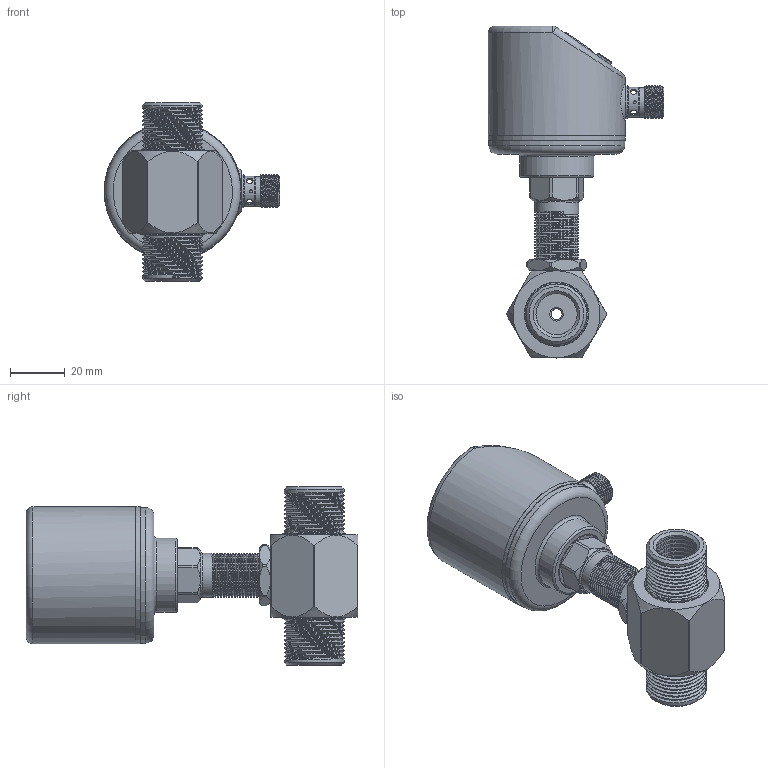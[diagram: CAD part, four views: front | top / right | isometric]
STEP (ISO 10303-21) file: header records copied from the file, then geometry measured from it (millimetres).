
FILE_DESCRIPTION (( 'STEP AP214' ), '1' );
FILE_NAME ('DN4俋杅珆.STEP', '2025-03-05T01:41:15', ( '' ), ( '' ), 'SwSTEP 2.0', 'SolidWorks 2020', '' );
FILE_SCHEMA (( 'AUTOMOTIVE_DESIGN' ));
Length unit declared in the file: millimetre
Products named in the file (11): 滅阨諉芛褲极1; 抻芛俋蹟恇G1-4; 蚾饜极2; 揤薯珆尨欶; PVC躇猾菜; 翋极; 偌瑩簽; DN4俋杅珆; 揤薯奻裔; 蹟譫1; 恦謫抻芛5
Assembly tree (12 placements, depth 3):
  DN4俋杅珆
    揤薯奻裔
    揤薯珆尨欶
    滅阨諉芛褲极1
    偌瑩簽  x3
    PVC躇猾菜
    抻芛俋蹟恇G1-4
    恦謫抻芛5
    蹟譫1
    蚾饜极2
      翋极
Bounding box: 64 x 120.9 x 65 mm (x, y, z)
Volume: 58226.8 mm3; surface area: 44374.5 mm2
Topology: 11 solids, 11 shells, 478 faces, 1146 edges, 746 vertices
Faces by surface type: cylinder 186, plane 174, cone 71, bspline 29, torus 14, sphere 4
Full cylindrical faces by diameter (mm): 1 x4, 1.2 x3, 1.8 x1, 2 x5, 2.5 x7, 2.8 x1, 4 x1, 4.3 x3, 4.5 x6, 7 x15, 7.2 x1, 8.5 x1, 9.75 x1, 10.5 x1, 10.7 x1, 10.8 x1, 10.9 x1, 11 x2, 12 x1, 14 x1, 14.3 x1, 14.4 x1, 14.8 x1, 15 x12, 16 x29, 17 x1, 17.34 x2, 17.4 x1, 21.24 x1, 21.3 x1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
Entity records: 27258 total; most frequent: CARTESIAN_POINT 18400, DIRECTION 1714, ORIENTED_EDGE 1518, EDGE_CURVE 759, AXIS2_PLACEMENT_3D 712, EDGE_LOOP 612, VERTEX_POINT 553, FACE_OUTER_BOUND 474
